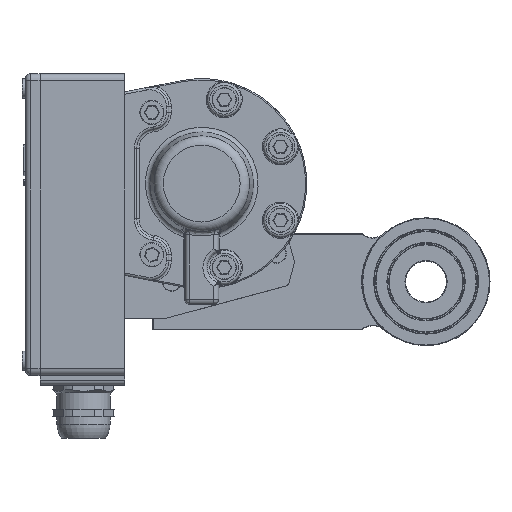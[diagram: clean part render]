
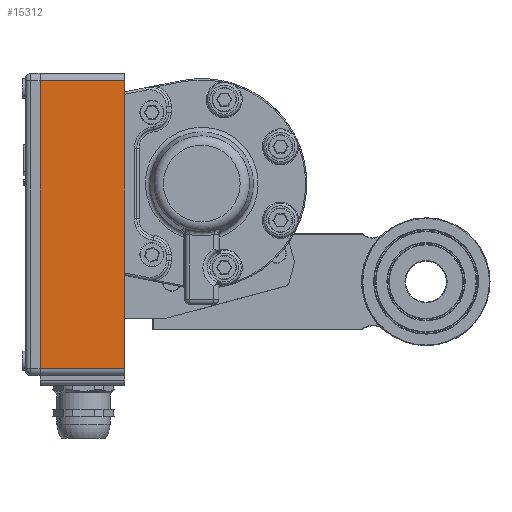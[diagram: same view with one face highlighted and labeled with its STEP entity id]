
A CAD part, top view. The second image highlights one B-rep face of the part: STEP entity #15312.
In plain terms, the highlighted planar face has unit normal (0, 0, 1) as drawn and (1, 0, 0) by its records, which use the part's own axes.
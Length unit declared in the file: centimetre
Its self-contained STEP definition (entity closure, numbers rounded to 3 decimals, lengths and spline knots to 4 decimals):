
#2481=VECTOR('',#18794,1.);
#2493=VECTOR('',#18846,1.);
#2514=VECTOR('',#18888,1.);
#2515=VECTOR('',#18890,1.);
#3512=LINE('',#31337,#2481);
#3524=LINE('',#31396,#2493);
#3545=LINE('',#31441,#2514);
#3546=LINE('',#31443,#2515);
#4391=PLANE('',#16593);
#5239=VERTEX_POINT('',#31336);
#5240=VERTEX_POINT('',#31338);
#5263=VERTEX_POINT('',#31395);
#5264=VERTEX_POINT('',#31397);
#7435=EDGE_CURVE('',#5240,#5239,#3512,.T.);
#7461=EDGE_CURVE('',#5264,#5263,#3524,.T.);
#7486=EDGE_CURVE('',#5240,#5263,#3545,.T.);
#7487=EDGE_CURVE('',#5264,#5239,#3546,.T.);
#10421=ORIENTED_EDGE('',*,*,#7486,.F.);
#10422=ORIENTED_EDGE('',*,*,#7435,.T.);
#10423=ORIENTED_EDGE('',*,*,#7487,.F.);
#10424=ORIENTED_EDGE('',*,*,#7461,.T.);
#13194=EDGE_LOOP('',(#10421,#10422,#10423,#10424));
#14361=FACE_BOUND('',#13194,.T.);
#15312=ADVANCED_FACE('',(#14361),#4391,.T.);
#16593=AXIS2_PLACEMENT_3D('',#31442,#18889,$);
#18794=DIRECTION('',(0.,1.,0.));
#18846=DIRECTION('',(0.,-1.,0.));
#18888=DIRECTION('',(0.,0.,1.));
#18889=DIRECTION('',(1.,0.,0.));
#18890=DIRECTION('',(0.,0.,-1.));
#31336=CARTESIAN_POINT('',(0.,12.2,0.));
#31337=CARTESIAN_POINT('',(0.,0.,0.));
#31338=CARTESIAN_POINT('',(0.,0.3,0.));
#31395=CARTESIAN_POINT('',(0.,0.3,3.5));
#31396=CARTESIAN_POINT('',(0.,0.,3.5));
#31397=CARTESIAN_POINT('',(0.,12.2,3.5));
#31441=CARTESIAN_POINT('',(0.,0.3,0.));
#31442=CARTESIAN_POINT('',(0.,6.25,0.));
#31443=CARTESIAN_POINT('',(0.,12.2,0.));
